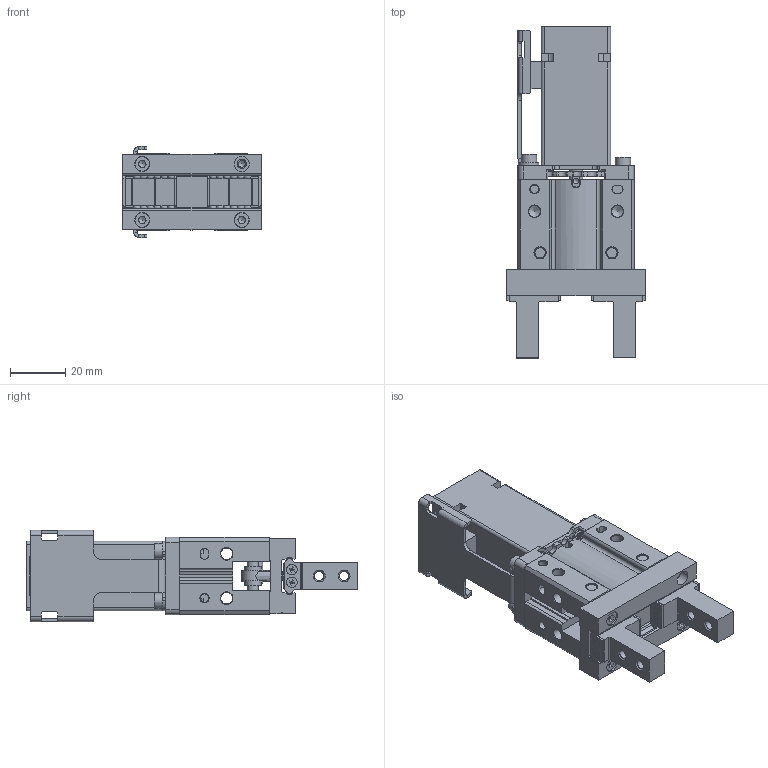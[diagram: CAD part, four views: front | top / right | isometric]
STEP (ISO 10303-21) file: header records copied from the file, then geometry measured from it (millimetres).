
FILE_DESCRIPTION(/* description */ (''),/* implementation_level */ '2;1');
FILE_NAME(/* name */ 'X:\1-1_一部&線馬部_主管專用\一部_ 劉于綾\---【專案處理】\2016 大本型錄校稿-新增+修改2D\型錄修改2D\Servo Cylinder\----2021待修改\CHZ20+25 外型圖變更 (2021.4.7向緯哥提供)\CHZ20-S10-TC100-04---2021.04.07 向緯哥提供修改版_TOP_Shrinkwrap_1.stp',/* time_stamp */ '2021-05-18T16:51:05+08:00',/* author */ ('T10033'),/* organization */ (''),/* preprocessor_version */ 'ST-DEVELOPER v18.1',/* originating_system */ 'Autodesk Inventor 2020',/* authorisation */ '');
FILE_SCHEMA (('CONFIG_CONTROL_DESIGN'));
Length unit declared in the file: millimetre
Products named in the file (1): CHZ20-S10-TC100-04---2021.04.07 向緯哥提供修改版_
TOP_Shrinkwrap_1
Bounding box: 50 x 120 x 33 mm (x, y, z)
Surface area: 32283.7 mm2 (no closed solid volume)
Topology: 0 solids, 71 shells, 836 faces, 2680 edges, 1875 vertices
Faces by surface type: plane 500, cylinder 201, cone 98, sphere 30, torus 7
Full cylindrical faces by diameter (mm): 2.5 x4, 3 x5, 3.301 x4, 3.8 x12, 4 x6, 4.2 x8, 4.3 x4, 5 x1, 5.5 x8, 6 x8
Entity records: 30768 total; most frequent: CARTESIAN_POINT 5897, DIRECTION 5219, ORIENTED_EDGE 4645, EDGE_CURVE 2607, AXIS2_PLACEMENT_3D 1880, VERTEX_POINT 1875, LINE 1459, VECTOR 1459
